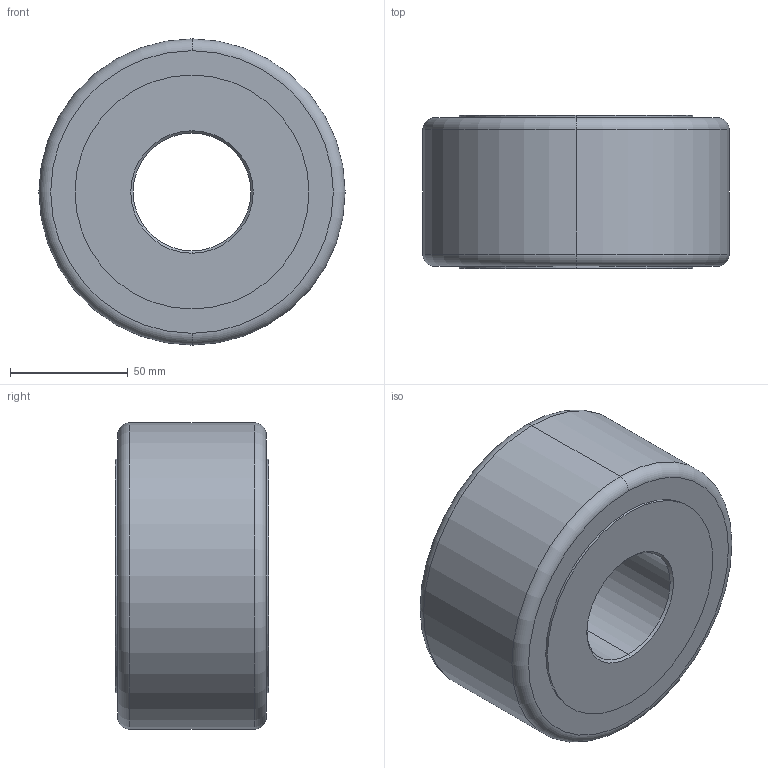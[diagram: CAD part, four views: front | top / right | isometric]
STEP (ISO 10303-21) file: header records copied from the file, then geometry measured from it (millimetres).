
FILE_DESCRIPTION (( 'STEP AP214' ), '1' );
FILE_NAME ('3DRSU50-130.STEP', '2013-12-19T09:30:38', ( 'usuario' ), ( 'Hewlett-Packard Company' ), 'SwSTEP 2.0', 'SolidWorks 2017', '' );
FILE_SCHEMA (( 'AUTOMOTIVE_DESIGN' ));
Length unit declared in the file: millimetre
Products named in the file (1): 3DRSU50-130
Bounding box: 130 x 65 x 130 mm (x, y, z)
Volume: 719615.6 mm3; surface area: 57226.8 mm2
Topology: 1 solids, 1 shells, 20 faces, 40 edges, 24 vertices
Faces by surface type: cylinder 8, cone 4, torus 4, plane 4
Entity records: 566 total; most frequent: DIRECTION 110, CARTESIAN_POINT 85, ORIENTED_EDGE 80, AXIS2_PLACEMENT_3D 49, EDGE_CURVE 40, CIRCLE 28, VERTEX_POINT 24, EDGE_LOOP 24
